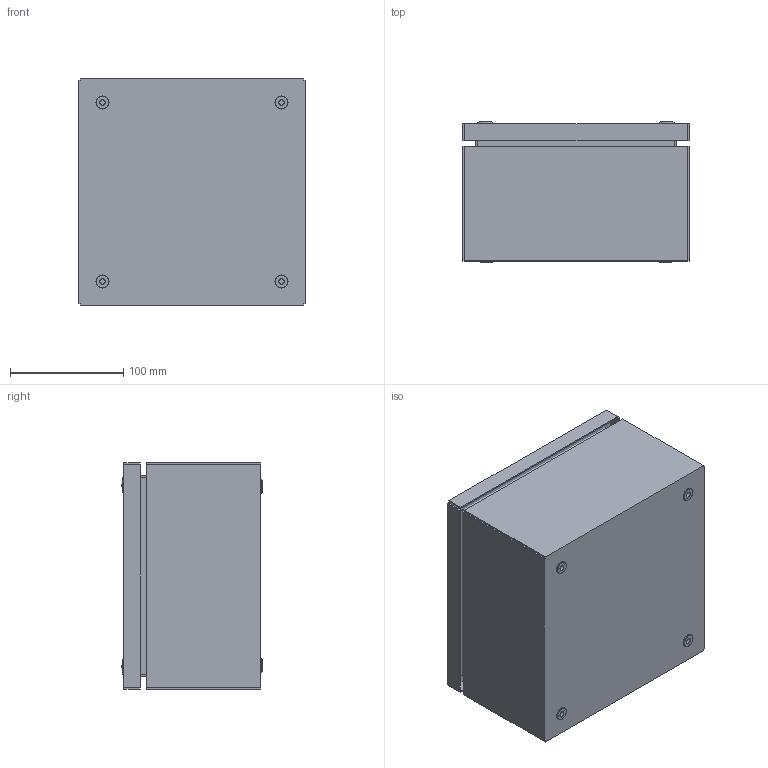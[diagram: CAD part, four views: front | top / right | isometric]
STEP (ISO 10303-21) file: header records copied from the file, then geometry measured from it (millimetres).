
FILE_DESCRIPTION(('Open CASCADE Model'),'2;1');
FILE_NAME('Open CASCADE Shape Model','2025-11-12T17:51:53',('Author'),( 'Open CASCADE'),'Open CASCADE STEP processor 7.8','Open CASCADE 7.8' ,'Unknown');
FILE_SCHEMA(('AUTOMOTIVE_DESIGN { 1 0 10303 214 1 1 1 1 }'));
Length unit declared in the file: millimetre
Products named in the file (16): Compound1; Compound2; Compound3; Solid1; Solid2; Solid3; Solid4; Solid5; Compound4; Compound5; Solid6; Solid7; Solid8; Solid9; Solid10; Solid11
Assembly tree (31 placements, depth 5):
  Compound1
    Compound2
      Compound3
        Solid1
        Solid2  x2
        Solid3  x2
        Solid4  x2
        Solid5
      Compound4
        Compound5
          Solid6
          Solid5
        Solid7
      Solid8  x4
      Solid9  x4
      Solid10  x4
    Solid11  x4
Bounding box: 200 x 123.79 x 200 mm (x, y, z)
Volume: 330425.3 mm3; surface area: 470325.9 mm2
Topology: 27 solids, 27 shells, 912 faces, 2456 edges, 1624 vertices
Faces by surface type: plane 668, cylinder 130, cone 46, bspline 32, torus 28, sphere 8
Full cylindrical faces by diameter (mm): 4 x14, 4.134 x4, 5 x8, 5.2 x4, 5.3 x4, 5.5 x4, 6 x2, 6.5 x4, 7.5 x6, 8 x8, 8.5 x4, 11.5 x4, 13.5 x4, 15.791 x4
Entity records: 14877 total; most frequent: CARTESIAN_POINT 4237, ORIENTED_EDGE 2226, DIRECTION 2016, EDGE_CURVE 1113, LINE 766, VECTOR 766, VERTEX_POINT 736, AXIS2_PLACEMENT_3D 625
